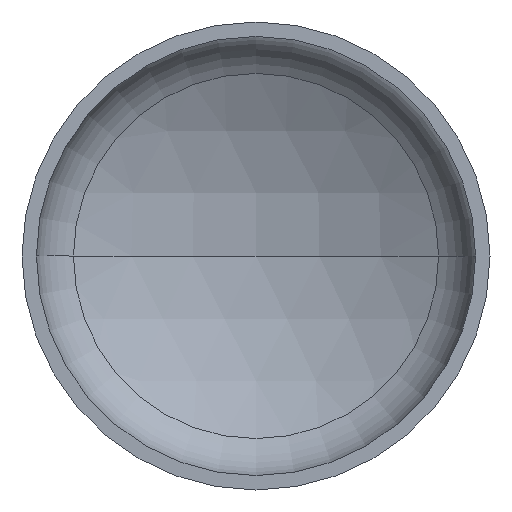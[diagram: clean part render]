
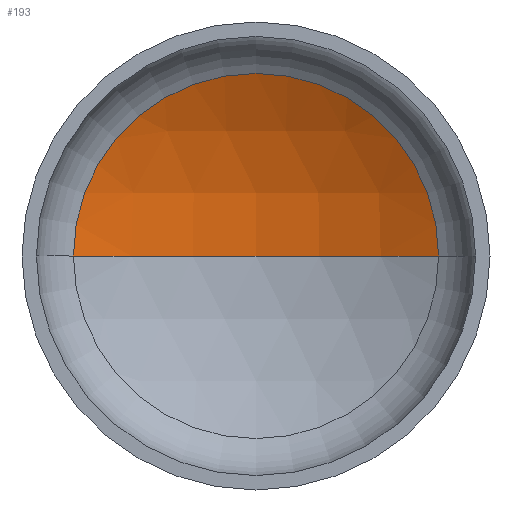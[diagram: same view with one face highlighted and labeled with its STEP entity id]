
A CAD part, front view. The second image highlights one B-rep face of the part: STEP entity #193.
In plain terms, the highlighted spherical face has radius 1920 mm.
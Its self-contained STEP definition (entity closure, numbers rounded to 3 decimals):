
#6 = DIRECTION ( 'NONE',  ( -1., 0., 0. ) ) ;
#28 = VERTEX_POINT ( 'NONE', #168 ) ;
#34 = AXIS2_PLACEMENT_3D ( 'NONE', #122, #324, #308 ) ;
#40 = AXIS2_PLACEMENT_3D ( 'NONE', #347, #345, #332 ) ;
#44 = AXIS2_PLACEMENT_3D ( 'NONE', #206, #195, #6 ) ;
#45 = AXIS2_PLACEMENT_3D ( 'NONE', #389, #225, #238 ) ;
#96 = VERTEX_POINT ( 'NONE', #295 ) ;
#103 = EDGE_CURVE ( 'NONE', #28, #96, #298, .T. ) ;
#112 = ORIENTED_EDGE ( 'NONE', *, *, #116, .T. ) ;
#116 = EDGE_CURVE ( 'NONE', #158, #28, #360, .T. ) ;
#122 = CARTESIAN_POINT ( 'NONE',  ( 0., -1233.131, 0. ) ) ;
#125 = EDGE_CURVE ( 'NONE', #158, #96, #290, .T. ) ;
#150 = SPHERICAL_SURFACE ( 'NONE', #34, 1920. ) ;
#156 = ORIENTED_EDGE ( 'NONE', *, *, #103, .T. ) ;
#158 = VERTEX_POINT ( 'NONE', #351 ) ;
#163 = FACE_OUTER_BOUND ( 'NONE', #184, .T. ) ;
#168 = CARTESIAN_POINT ( 'NONE',  ( 936.465, 443.006, 0. ) ) ;
#184 = EDGE_LOOP ( 'NONE', ( #323, #112, #156 ) ) ;
#193 = ADVANCED_FACE ( 'NONE', ( #163 ), #150, .F. ) ;
#195 = DIRECTION ( 'NONE',  ( 0., 0., -1. ) ) ;
#206 = CARTESIAN_POINT ( 'NONE',  ( 0., -1233.131, 0. ) ) ;
#225 = DIRECTION ( 'NONE',  ( 0., -1., 0. ) ) ;
#238 = DIRECTION ( 'NONE',  ( 1., 0., 0. ) ) ;
#290 = CIRCLE ( 'NONE', #40, 1920. ) ;
#295 = CARTESIAN_POINT ( 'NONE',  ( -936.465, 443.006, 0. ) ) ;
#298 = CIRCLE ( 'NONE', #45, 936.465 ) ;
#308 = DIRECTION ( 'NONE',  ( -1., 0., 0. ) ) ;
#323 = ORIENTED_EDGE ( 'NONE', *, *, #125, .F. ) ;
#324 = DIRECTION ( 'NONE',  ( 0., 0., -1. ) ) ;
#332 = DIRECTION ( 'NONE',  ( 1., 0., 0. ) ) ;
#345 = DIRECTION ( 'NONE',  ( 0., 0., 1. ) ) ;
#347 = CARTESIAN_POINT ( 'NONE',  ( 0., -1233.131, 0. ) ) ;
#351 = CARTESIAN_POINT ( 'NONE',  ( 0., 686.869, 0. ) ) ;
#360 = CIRCLE ( 'NONE', #44, 1920. ) ;
#389 = CARTESIAN_POINT ( 'NONE',  ( 0., 443.006, 0. ) ) ;
